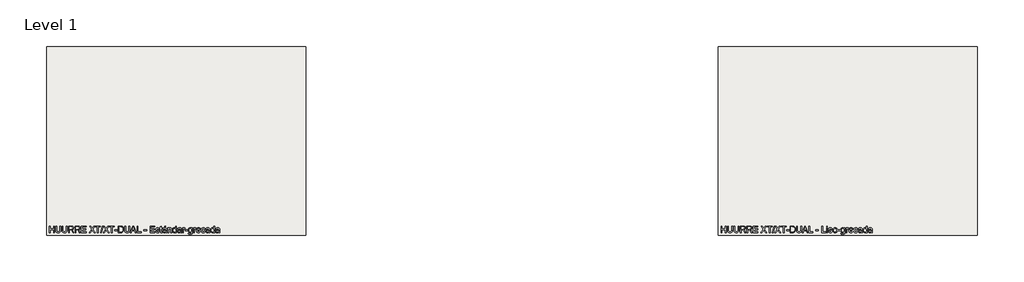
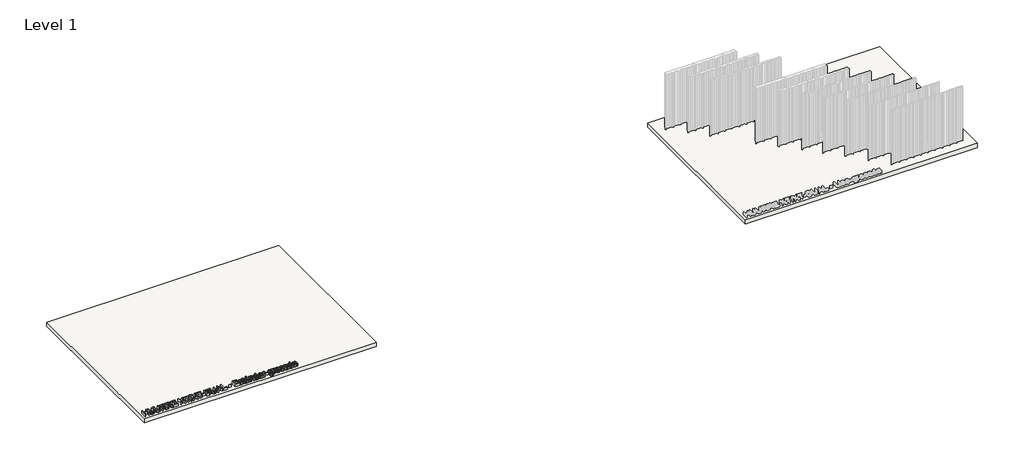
# One storey, part 1 of 2: 2 slabs, 1 proxy.
"""IFC4 building model written with IfcOpenShell, lengths in millimetres."""

from ifc_helpers import new_model, si_unit, frame, origin, origin_with_axes, place, context, project, spatial, polyline, outline, extrude, element, save

model = new_model("IFC4")

# Units and contexts
model_context = context("Model", 3, world=origin())
ifc_project = project(units=[si_unit("LENGTHUNIT", "METRE", prefix="MILLI")], contexts=[model_context])

# Site, building, storey
site = spatial("IfcSite", under=ifc_project)
building = spatial("IfcBuilding", under=site)
storey = spatial("IfcBuildingStorey", under=building, Name="Level 1", Elevation=0.0)

# Proxy
placement = place(None, origin())
element("IfcBuildingElementProxy", 1, Name="200mm Arial", ObjectType="200mm Arial", at=placement, inside=storey, context=model_context, shape_type="SweptSolid", body=[
    extrude(outline(polyline([(-10339.1902574, 798.4307978), (-10339.1902574, 999.3434181), (-10314.0761799, 999.3434181), (-10314.0761799, 917.7226661), (-10207.3413503, 917.7226661), (-10207.3413503, 999.3434181), (-10182.2272728, 999.3434181), (-10182.2272728, 798.4307978), (-10207.3413503, 798.4307978), (-10207.3413503, 892.6085886), (-10314.0761799, 892.6085886), (-10314.0761799, 798.4307978), (-10339.1902574, 798.4307978)])), origin_with_axes(), (0.0, 0.0, 1.0), 100.0),
    extrude(outline(polyline([(-10006.42873, 999.3434181), (-9981.3146525, 999.3434181), (-9981.3146525, 883.4360642), (-9983.0191724, 856.2925043), (-9988.1327321, 835.3906756), (-9997.6854013, 819.2651815), (-10012.7072494, 806.4506253), (-10033.2350647, 798.0813099), (-10059.3056355, 795.2915381), (-10084.8059891, 797.7195593), (-10105.192783, 805.0036228), (-10120.4721485, 816.8923426), (-10130.6502171, 833.1343327), (-10136.3707821, 854.9190782), (-10138.2776371, 883.4360642), (-10138.2776371, 999.3434181), (-10113.1635596, 999.3434181), (-10113.1635596, 884.318981), (-10111.9250235, 861.7494205), (-10108.2094154, 846.034728), (-10101.4771748, 835.1515523), (-10091.1887417, 827.0765425), (-10077.7733116, 822.0733474), (-10061.6600802, 820.4056157), (-10036.116807, 823.7042909), (-10019.1329216, 833.6003165), (-10009.6047779, 852.8773331), (-10006.42873, 884.318981), (-10006.42873, 999.3434181)])), origin_with_axes(), (0.0, 0.0, 1.0), 100.0),
    extrude(outline(polyline([(-9805.5161097, 999.3434181), (-9780.4020322, 999.3434181), (-9780.4020322, 883.4360642), (-9782.1065521, 856.2925043), (-9787.2201118, 835.3906756), (-9796.772781, 819.2651815), (-9811.7946291, 806.4506253), (-9832.3224444, 798.0813099), (-9858.3930152, 795.2915381), (-9883.8933688, 797.7195593), (-9904.2801627, 805.0036228), (-9919.5595282, 816.8923426), (-9929.7375968, 833.1343327), (-9935.4581618, 854.9190782), (-9937.3650168, 883.4360642), (-9937.3650168, 999.3434181), (-9912.2509393, 999.3434181), (-9912.2509393, 884.318981), (-9911.0124032, 861.7494205), (-9907.2967951, 846.034728), (-9900.5645545, 835.1515523), (-9890.2761214, 827.0765425), (-9876.8606913, 822.0733474), (-9860.7474599, 820.4056157), (-9835.2041867, 823.7042909), (-9818.2203013, 833.6003165), (-9808.6921576, 852.8773331), (-9805.5161097, 884.318981), (-9805.5161097, 999.3434181)])), origin_with_axes(), (0.0, 0.0, 1.0), 100.0),
    extrude(outline(polyline([(-9736.4523965, 798.4307978), (-9736.4523965, 999.3434181), (-9649.8775003, 999.3434181), (-9626.6089641, 997.9883861), (-9609.680261, 993.92329), (-9597.3071632, 986.4184973), (-9587.7054431, 974.7443754), (-9581.5434197, 960.2682189), (-9579.4894119, 944.3573226), (-9582.8923203, 924.5652712), (-9593.1010457, 908.1577342), (-9610.4221563, 896.127993), (-9635.1622205, 889.4693289), (-9620.8883991, 878.7271746), (-9600.532262, 852.8773331), (-9567.030475, 798.4307978), (-9596.2157799, 798.4307978), (-9622.3599271, 840.0750397), (-9641.2445361, 867.6416638), (-9654.5128134, 880.6646865), (-9666.4567156, 885.4471524), (-9681.0248426, 886.3300692), (-9711.338319, 886.3300692), (-9711.338319, 798.4307978), (-9736.4523965, 798.4307978)]), holes=[polyline([(-9711.338319, 911.4441467), (-9655.1259501, 911.4441467), (-9626.4556799, 915.0003393), (-9617.0256381, 919.6233898), (-9610.1707703, 926.3801557), (-9604.6034894, 943.4253548), (-9607.2583712, 955.6758253), (-9615.2230164, 965.5473255), (-9628.9266207, 972.0588368), (-9648.7983798, 974.2293406), (-9711.338319, 974.2293406), (-9711.338319, 911.4441467)])]), origin_with_axes(), (0.0, 0.0, 1.0), 100.0),
    extrude(outline(polyline([(-9535.5397762, 798.4307978), (-9535.5397762, 999.3434181), (-9448.96488, 999.3434181), (-9425.6963438, 997.9883861), (-9408.7676407, 993.92329), (-9396.3945429, 986.4184973), (-9386.7928228, 974.7443754), (-9380.6307994, 960.2682189), (-9378.5767916, 944.3573226), (-9381.9797, 924.5652712), (-9392.1884254, 908.1577342), (-9409.509536, 896.127993), (-9434.2496002, 889.4693289), (-9419.9757788, 878.7271746), (-9399.6196417, 852.8773331), (-9366.1178547, 798.4307978), (-9395.3031596, 798.4307978), (-9421.4473068, 840.0750397), (-9440.3319158, 867.6416638), (-9453.6001931, 880.6646865), (-9465.5440953, 885.4471524), (-9480.1122223, 886.3300692), (-9510.4256987, 886.3300692), (-9510.4256987, 798.4307978), (-9535.5397762, 798.4307978)]), holes=[polyline([(-9510.4256987, 911.4441467), (-9454.2133298, 911.4441467), (-9425.5430596, 915.0003393), (-9416.1130178, 919.6233898), (-9409.25815, 926.3801557), (-9403.6908691, 943.4253548), (-9406.3457509, 955.6758253), (-9414.3103961, 965.5473255), (-9428.0140004, 972.0588368), (-9447.8857595, 974.2293406), (-9510.4256987, 974.2293406), (-9510.4256987, 911.4441467)])]), origin_with_axes(), (0.0, 0.0, 1.0), 100.0),
    extrude(outline(polyline([(-9334.6271559, 798.4307978), (-9334.6271559, 999.3434181), (-9190.2212101, 999.3434181), (-9190.2212101, 974.2293406), (-9309.5130784, 974.2293406), (-9309.5130784, 914.5834064), (-9196.4997294, 914.5834064), (-9196.4997294, 889.4693289), (-9309.5130784, 889.4693289), (-9309.5130784, 823.5448753), (-9187.0819504, 823.5448753), (-9187.0819504, 798.4307978), (-9334.6271559, 798.4307978)])), origin_with_axes(), (0.0, 0.0, 1.0), 100.0),
    extrude(outline(polyline([(-9092.9041596, 798.4307978), (-9015.5017878, 907.9124796), (-9080.3471208, 999.3434181), (-9050.2788991, 999.3434181), (-9013.7359542, 947.8399388), (-9001.4241701, 927.7781073), (-8987.0031959, 948.2813972), (-8950.8526585, 999.3434181), (-8920.2448765, 999.3434181), (-8985.1392605, 907.569123), (-8907.6878378, 798.4307978), (-8937.8051104, 798.4307978), (-8989.4557426, 871.173331), (-9000.1978968, 886.2319673), (-9011.9210697, 869.701803), (-9062.2963776, 798.4307978), (-9092.9041596, 798.4307978)])), origin_with_axes(), (0.0, 0.0, 1.0), 100.0),
    extrude(outline(polyline([(-8832.3456052, 798.4307978), (-8832.3456052, 974.2293406), (-8898.2700587, 974.2293406), (-8898.2700587, 999.3434181), (-8741.3070741, 999.3434181), (-8741.3070741, 974.2293406), (-8807.2315276, 974.2293406), (-8807.2315276, 798.4307978), (-8832.3456052, 798.4307978)])), origin_with_axes(), (0.0, 0.0, 1.0), 100.0),
    extrude(outline(polyline([(-8735.0285547, 798.4307978), (-8678.5218802, 999.3434181), (-8655.7622475, 999.3434181), (-8712.3179729, 798.4307978), (-8735.0285547, 798.4307978)])), origin_with_axes(), (0.0, 0.0, 1.0), 100.0),
    extrude(outline(polyline([(-8656.5470624, 798.4307978), (-8579.1446906, 907.9124796), (-8643.9900236, 999.3434181), (-8613.9218019, 999.3434181), (-8577.378857, 947.8399388), (-8565.0670729, 927.7781073), (-8550.6460987, 948.2813972), (-8514.4955613, 999.3434181), (-8483.8877793, 999.3434181), (-8548.7821633, 907.569123), (-8471.3307406, 798.4307978), (-8501.4480132, 798.4307978), (-8553.0986453, 871.173331), (-8563.8407996, 886.2319673), (-8575.5639725, 869.701803), (-8625.9392804, 798.4307978), (-8656.5470624, 798.4307978)])), origin_with_axes(), (0.0, 0.0, 1.0), 100.0),
    extrude(outline(polyline([(-8395.9885079, 798.4307978), (-8395.9885079, 974.2293406), (-8461.9129615, 974.2293406), (-8461.9129615, 999.3434181), (-8304.9499769, 999.3434181), (-8304.9499769, 974.2293406), (-8370.8744304, 974.2293406), (-8370.8744304, 798.4307978), (-8395.9885079, 798.4307978)])), origin_with_axes(), (0.0, 0.0, 1.0), 100.0),
    extrude(outline(polyline([(-8292.3929381, 858.076732), (-8292.3929381, 883.1908095), (-8213.9114458, 883.1908095), (-8213.9114458, 858.076732), (-8292.3929381, 858.076732)])), origin_with_axes(), (0.0, 0.0, 1.0), 100.0),
    extrude(outline(polyline([(-8182.5188489, 798.4307978), (-8182.5188489, 999.3434181), (-8113.209881, 999.3434181), (-8077.3536492, 996.4494131), (-8061.3385197, 990.8698695), (-8047.8249877, 982.0774898), (-8033.931311, 966.7735988), (-8024.0352854, 947.7418369), (-8018.1123852, 925.3500861), (-8016.1380852, 899.9662285), (-8021.4846369, 859.4256326), (-8035.218898, 830.1667513), (-8053.5639468, 811.9443298), (-8077.5743784, 801.8643631), (-8109.8744176, 798.4307978), (-8182.5188489, 798.4307978)]), holes=[polyline([(-8157.4047713, 823.5448753), (-8112.9646263, 823.5448753), (-8080.6400617, 827.1746444), (-8062.0007073, 837.4262893), (-8053.2757726, 848.2972023), (-8046.7213417, 862.3686886), (-8042.6194575, 879.7020619), (-8041.2521627, 900.3586359), (-8043.9315699, 927.7290564), (-8051.9697915, 947.9380407), (-8063.8462486, 961.8194546), (-8078.0403622, 970.2071641), (-8113.6513394, 974.2293406), (-8157.4047713, 974.2293406), (-8157.4047713, 823.5448753)])]), origin_with_axes(), (0.0, 0.0, 1.0), 100.0),
    extrude(outline(polyline([(-7849.7573215, 999.3434181), (-7824.643244, 999.3434181), (-7824.643244, 883.4360642), (-7826.3477639, 856.2925043), (-7831.4613236, 835.3906756), (-7841.0139928, 819.2651815), (-7856.0358409, 806.4506253), (-7876.5636562, 798.0813099), (-7902.6342269, 795.2915381), (-7928.1345806, 797.7195593), (-7948.5213745, 805.0036228), (-7963.80074, 816.8923426), (-7973.9788085, 833.1343327), (-7979.6993736, 854.9190782), (-7981.6062286, 883.4360642), (-7981.6062286, 999.3434181), (-7956.492151, 999.3434181), (-7956.492151, 884.318981), (-7955.253615, 861.7494205), (-7951.5380068, 846.034728), (-7944.8057663, 835.1515523), (-7934.5173332, 827.0765425), (-7921.1019031, 822.0733474), (-7904.9886717, 820.4056157), (-7879.4453985, 823.7042909), (-7862.4615131, 833.6003165), (-7852.9333694, 852.8773331), (-7849.7573215, 884.318981), (-7849.7573215, 999.3434181)])), origin_with_axes(), (0.0, 0.0, 1.0), 100.0),
    extrude(outline(polyline([(-7804.0418522, 798.4307978), (-7723.8435773, 999.3434181), (-7702.4573706, 999.3434181), (-7622.3081466, 798.4307978), (-7648.8447012, 798.4307978), (-7671.8005377, 861.2159917), (-7754.5985121, 861.2159917), (-7777.5543486, 798.4307978), (-7804.0418522, 798.4307978)]), holes=[polyline([(-7745.3769367, 886.3300692), (-7680.9730621, 886.3300692), (-7699.1219072, 935.7243584), (-7713.1995249, 974.2293406), (-7725.7075127, 940.0408405), (-7745.3769367, 886.3300692)])]), origin_with_axes(), (0.0, 0.0, 1.0), 100.0),
    extrude(outline(polyline([(-7595.4772864, 798.4307978), (-7595.4772864, 999.3434181), (-7570.3632089, 999.3434181), (-7570.3632089, 823.5448753), (-7469.9068988, 823.5448753), (-7469.9068988, 798.4307978), (-7595.4772864, 798.4307978)])), origin_with_axes(), (0.0, 0.0, 1.0), 100.0),
    extrude(outline(polyline([(-7378.8683677, 858.076732), (-7378.8683677, 883.1908095), (-7300.3868754, 883.1908095), (-7300.3868754, 858.076732), (-7378.8683677, 858.076732)])), origin_with_axes(), (0.0, 0.0, 1.0), 100.0),
    extrude(outline(polyline([(-7190.5127861, 798.4307978), (-7190.5127861, 999.3434181), (-7046.1068403, 999.3434181), (-7046.1068403, 974.2293406), (-7165.3987086, 974.2293406), (-7165.3987086, 914.5834064), (-7052.3853597, 914.5834064), (-7052.3853597, 889.4693289), (-7165.3987086, 889.4693289), (-7165.3987086, 823.5448753), (-7042.9675806, 823.5448753), (-7042.9675806, 798.4307978), (-7190.5127861, 798.4307978)])), origin_with_axes(), (0.0, 0.0, 1.0), 100.0),
    extrude(outline(polyline([(-7017.8535031, 842.3804335), (-6992.7394255, 845.5196932), (-6988.7785627, 834.7775389), (-6981.1143545, 826.8803388), (-6969.6977499, 822.0242964), (-6954.479698, 820.4056157), (-6939.4455872, 821.8894064), (-6928.8751112, 826.3407785), (-6922.6211173, 832.7909762), (-6920.5364526, 840.2712434), (-6922.63338, 846.6723901), (-6928.9241621, 851.5529579), (-6954.7740036, 858.7143941), (-6992.5922727, 871.0016527), (-7002.163336, 877.1759389), (-7009.0979116, 885.3490505), (-7014.7142434, 905.6070857), (-7010.2015576, 924.3200166), (-6997.8897735, 938.6183634), (-6981.9236949, 946.0495797), (-6960.316759, 949.115263), (-6929.758028, 944.1856443), (-6918.3291606, 938.3853715), (-6910.3338586, 930.8437906), (-6901.7008945, 908.304887), (-6926.814972, 905.1656273), (-6929.9848885, 913.0689589), (-6936.2572765, 919.0225158), (-6958.3547217, 924.0011855), (-6972.7756959, 922.8117004), (-6982.3896787, 919.243245), (-6987.7975441, 914.0928971), (-6989.6001658, 908.1577342), (-6986.608059, 900.8491453), (-6977.2393308, 895.3063899), (-6955.6078695, 889.9598382), (-6918.7460936, 878.1385634), (-6901.6273181, 864.7476588), (-6896.9736108, 854.9006841), (-6895.4223751, 842.9199938), (-6897.243391, 830.5346333), (-6902.7064386, 818.8850367), (-6911.6030515, 808.8847778), (-6923.7247632, 801.4474302), (-6938.3664667, 796.8305111), (-6954.8230546, 795.2915381), (-6980.1455986, 798.2591195), (-6998.6255375, 807.1618638), (-7010.961847, 821.9016691), (-7017.8535031, 842.3804335)])), origin_with_axes(), (0.0, 0.0, 1.0), 100.0),
    extrude(outline(polyline([(-6813.8016231, 819.3755461), (-6810.6623634, 797.6950338), (-6829.4488706, 795.2915381), (-6850.4917207, 799.4608674), (-6860.9886203, 810.3992254), (-6864.0297782, 838.8978173), (-6864.0297782, 920.8619258), (-6882.8653363, 920.8619258), (-6882.8653363, 945.9760033), (-6864.0297782, 945.9760033), (-6864.0297782, 981.8322351), (-6838.9157006, 996.5965659), (-6838.9157006, 945.9760033), (-6813.8016231, 945.9760033), (-6813.8016231, 920.8619258), (-6838.9157006, 920.8619258), (-6838.9157006, 839.6335813), (-6837.5913254, 826.684135), (-6833.2993688, 822.0978728), (-6824.7399811, 820.4056157), (-6813.8016231, 819.3755461)])), origin_with_axes(), (0.0, 0.0, 1.0), 100.0),
    extrude(outline(polyline([(-6744.7379099, 961.6723018), (-6725.9023517, 999.3434181), (-6694.5097548, 999.3434181), (-6725.9023517, 961.6723018), (-6744.7379099, 961.6723018)])), origin_with_axes(), (0.0, 0.0, 1.0), 100.0),
    extrude(outline(polyline([(-6694.5097548, 817.266356), (-6718.8635429, 800.2456823), (-6745.7679794, 795.2915381), (-6766.7556473, 798.2713823), (-6782.2373479, 807.2109148), (-6791.7838857, 820.7857604), (-6794.9660649, 837.671544), (-6790.1590735, 857.5371717), (-6777.5284584, 871.9581459), (-6759.943699, 880.1987026), (-6738.2141358, 883.9756244), (-6694.6569076, 892.6085886), (-6694.5097548, 898.2003949), (-6696.2388002, 909.408533), (-6701.4259363, 916.7416475), (-6713.0264819, 922.186301), (-6729.1887642, 924.0011855), (-6744.1492987, 922.7933063), (-6754.5971473, 919.1696686), (-6761.7217953, 912.4680849), (-6766.7127277, 902.0263677), (-6791.8268052, 905.1656273), (-6780.9620236, 929.6910937), (-6771.7036601, 937.9439131), (-6759.0853077, 944.063017), (-6725.9514026, 949.115263), (-6695.5152989, 944.6516282), (-6678.322947, 933.44349), (-6670.6219506, 916.3982909), (-6669.3956772, 894.4234731), (-6669.3956772, 863.178029), (-6668.120353, 819.5472243), (-6663.1171579, 798.4307978), (-6688.2312354, 798.4307978), (-6694.5097548, 817.266356)]), holes=[polyline([(-6694.5097548, 867.494511), (-6735.0258252, 859.7935146), (-6756.632761, 855.7222872), (-6766.4184221, 849.1004113), (-6769.8519874, 839.4373775), (-6767.9819206, 831.969373), (-6762.3717202, 825.8502692), (-6753.1440134, 821.766779), (-6740.4214278, 820.4056157), (-6726.9324213, 821.9078005), (-6715.0130446, 826.4143549), (-6698.6300331, 840.9579565), (-6694.6569076, 860.3821258), (-6694.5097548, 867.494511)])]), origin_with_axes(), (0.0, 0.0, 1.0), 100.0),
    extrude(outline(polyline([(-6634.8638206, 798.4307978), (-6634.8638206, 945.9760033), (-6609.7497431, 945.9760033), (-6609.7497431, 925.3746116), (-6601.0248084, 935.7611466), (-6590.5463029, 943.1801002), (-6578.3142266, 947.6314723), (-6564.3285794, 949.115263), (-6540.6124535, 944.3327971), (-6524.4256457, 931.7757583), (-6516.8963275, 913.3080822), (-6515.5719523, 889.0278705), (-6515.5719523, 798.4307978), (-6540.6860299, 798.4307978), (-6540.6860299, 885.6433561), (-6543.5800349, 907.8634286), (-6553.8071544, 919.611127), (-6571.0485572, 924.0011855), (-6585.7577056, 921.5363761), (-6598.2963503, 914.141948), (-6606.8863949, 899.8558639), (-6609.7497431, 876.7160864), (-6609.7497431, 798.4307978), (-6634.8638206, 798.4307978)])), origin_with_axes(), (0.0, 0.0, 1.0), 100.0),
    extrude(outline(polyline([(-6390.0015646, 798.4307978), (-6390.0015646, 822.1223983), (-6397.5155544, 810.383897), (-6406.6175681, 801.9992532), (-6417.3076057, 796.9684669), (-6429.5856673, 795.2915381), (-6445.821526, 797.7195593), (-6460.6839586, 805.0036228), (-6473.2655229, 816.6348252), (-6482.6587765, 832.1042631), (-6488.5081002, 850.7865371), (-6490.4578748, 872.0562478), (-6488.6613844, 893.0623097), (-6483.2719132, 912.0327579), (-6474.2955925, 927.8884719), (-6461.7385537, 939.5503312), (-6446.5511587, 946.7240301), (-6429.6837692, 949.115263), (-6417.3965105, 947.4046118), (-6406.531729, 942.2726579), (-6390.0015646, 924.4916948), (-6390.0015646, 999.3434181), (-6364.8874871, 999.3434181), (-6364.8874871, 798.4307978), (-6390.0015646, 798.4307978)]), holes=[polyline([(-6465.3437973, 872.1543496), (-6462.5111059, 849.4376364), (-6454.0130318, 833.2814855), (-6441.6644595, 823.6245831), (-6427.2802735, 820.4056157), (-6412.9022188, 823.4774303), (-6400.8663462, 832.6928743), (-6392.71776, 848.2236259), (-6390.0015646, 870.2413633), (-6392.766811, 894.3131085), (-6401.06255, 911.0026883), (-6413.4049909, 920.7515612), (-6428.3103431, 924.0011855), (-6442.8416819, 920.8803199), (-6454.7487958, 911.5177231), (-6462.6950469, 895.4351486), (-6465.3437973, 872.1543496)])]), origin_with_axes(), (0.0, 0.0, 1.0), 100.0),
    extrude(outline(polyline([(-6233.03858, 817.266356), (-6257.3923681, 800.2456823), (-6284.2968047, 795.2915381), (-6305.2844725, 798.2713823), (-6320.7661731, 807.2109148), (-6330.3127109, 820.7857604), (-6333.4948902, 837.671544), (-6328.6878988, 857.5371717), (-6316.0572836, 871.9581459), (-6298.4725242, 880.1987026), (-6276.7429611, 883.9756244), (-6233.1857328, 892.6085886), (-6233.03858, 898.2003949), (-6234.7676254, 909.408533), (-6239.9547615, 916.7416475), (-6251.5553071, 922.186301), (-6267.7175894, 924.0011855), (-6282.6781239, 922.7933063), (-6293.1259726, 919.1696686), (-6300.2506206, 912.4680849), (-6305.241553, 902.0263677), (-6330.3556305, 905.1656273), (-6319.4908489, 929.6910937), (-6310.2324854, 937.9439131), (-6297.6141329, 944.063017), (-6264.4802279, 949.115263), (-6234.0441242, 944.6516282), (-6216.8517722, 933.44349), (-6209.1507758, 916.3982909), (-6207.9245025, 894.4234731), (-6207.9245025, 863.178029), (-6206.6491782, 819.5472243), (-6201.6459831, 798.4307978), (-6226.7600606, 798.4307978), (-6233.03858, 817.266356)]), holes=[polyline([(-6233.03858, 867.494511), (-6273.5546504, 859.7935146), (-6295.1615863, 855.7222872), (-6304.9472474, 849.1004113), (-6308.3808126, 839.4373775), (-6306.5107458, 831.969373), (-6300.9005454, 825.8502692), (-6291.6728387, 821.766779), (-6278.950253, 820.4056157), (-6265.4612465, 821.9078005), (-6253.5418699, 826.4143549), (-6237.1588584, 840.9579565), (-6233.1857328, 860.3821258), (-6233.03858, 867.494511)])]), origin_with_axes(), (0.0, 0.0, 1.0), 100.0),
    extrude(outline(polyline([(-6173.3926459, 798.4307978), (-6173.3926459, 945.9760033), (-6151.417828, 945.9760033), (-6151.417828, 924.1483383), (-6135.8196314, 944.2592207), (-6120.123333, 949.115263), (-6107.6153451, 947.1777512), (-6094.9111536, 941.3652157), (-6103.2988631, 918.8508376), (-6120.9571988, 924.0011855), (-6135.1574438, 919.0470413), (-6144.2073409, 905.3127801), (-6148.2785683, 875.9803224), (-6148.2785683, 798.4307978), (-6173.3926459, 798.4307978)])), origin_with_axes(), (0.0, 0.0, 1.0), 100.0),
    extrude(outline(polyline([(-6091.7718939, 858.076732), (-6091.7718939, 883.1908095), (-6013.2904016, 883.1908095), (-6013.2904016, 858.076732), (-6091.7718939, 858.076732)])), origin_with_axes(), (0.0, 0.0, 1.0), 100.0),
    extrude(outline(polyline([(-5991.3155837, 785.873759), (-5966.2015062, 782.7344994), (-5963.4301285, 774.8863501), (-5958.0590514, 769.4907475), (-5947.5008381, 765.2968928), (-5933.6807378, 763.8989412), (-5918.9409326, 765.4808338), (-5907.9780491, 770.2265115), (-5900.3751545, 777.8294061), (-5895.7153159, 787.9829491), (-5893.9985333, 817.266356), (-5911.6813945, 803.1396873), (-5933.2392794, 798.4307978), (-5959.1320405, 803.9122395), (-5978.4397139, 820.3565647), (-5990.451061, 844.4650981), (-5994.4548434, 872.9391646), (-5992.658353, 893.2155939), (-5987.2688818, 911.8610797), (-5978.4765021, 927.6616113), (-5966.4712863, 939.4031784), (-5951.664036, 946.6872419), (-5934.4655527, 949.115263), (-5912.0615392, 943.6215586), (-5893.9985333, 927.1404452), (-5893.9985333, 945.9760033), (-5868.8844557, 945.9760033), (-5868.8844557, 818.5907311), (-5870.6012384, 789.1785656), (-5875.7515863, 769.8095786), (-5884.6236738, 756.9643656), (-5897.505675, 747.1235222), (-5914.115547, 740.8695283), (-5934.1712472, 738.7848637), (-5957.5378852, 741.7217883), (-5975.9381163, 750.532562), (-5987.740997, 765.2417105), (-5991.3155837, 785.873759)]), holes=[polyline([(-5969.3407659, 874.6559472), (-5966.6613587, 851.6204029), (-5958.6231371, 835.7830831), (-5946.5382136, 826.6044273), (-5931.7187005, 823.5448753), (-5917.0095521, 826.5860332), (-5904.8633149, 835.7095067), (-5896.7147287, 851.3444915), (-5893.9985333, 873.9201832), (-5896.7944364, 895.692666), (-5905.1821459, 911.3705703), (-5917.5061928, 920.8435317), (-5932.111108, 924.0011855), (-5946.4523744, 920.8925826), (-5958.4759843, 911.5667741), (-5966.6245705, 896.1218616), (-5969.3407659, 874.6559472)])]), origin_with_axes(), (0.0, 0.0, 1.0), 100.0),
    extrude(outline(polyline([(-5831.2133394, 798.4307978), (-5831.2133394, 945.9760033), (-5809.2385216, 945.9760033), (-5809.2385216, 924.1483383), (-5793.640325, 944.2592207), (-5777.9440265, 949.115263), (-5765.4360387, 947.1777512), (-5752.7318471, 941.3652157), (-5761.1195566, 918.8508376), (-5778.7778924, 924.0011855), (-5792.9781374, 919.0470413), (-5802.0280345, 905.3127801), (-5806.0992619, 875.9803224), (-5806.0992619, 798.4307978), (-5831.2133394, 798.4307978)])), origin_with_axes(), (0.0, 0.0, 1.0), 100.0),
    extrude(outline(polyline([(-5633.7342844, 842.3804335), (-5609.1107162, 839.2411738), (-5617.9828037, 820.6876585), (-5632.1401291, 806.8185073), (-5651.2638615, 798.1732804), (-5675.0351697, 795.2915381), (-5704.5025176, 800.2640764), (-5727.1763112, 815.1816913), (-5741.6340736, 839.0756269), (-5746.4533277, 870.9771273), (-5741.5850227, 903.9516168), (-5726.9801075, 928.6119732), (-5704.6128822, 943.9894406), (-5676.4576468, 949.115263), (-5649.1791969, 944.0017033), (-5627.3821886, 928.6610241), (-5613.0899731, 904.0497186), (-5608.3259013, 871.1242801), (-5608.4730541, 864.3552513), (-5721.3392502, 864.3552513), (-5716.9921113, 845.5564814), (-5706.8937505, 831.7363811), (-5692.3194922, 823.238307), (-5674.5446604, 820.4056157), (-5649.9210922, 825.6540655), (-5640.7730933, 832.4598824), (-5633.7342844, 842.3804335)]), holes=[polyline([(-5721.3392502, 889.4693289), (-5633.4399788, 889.4693289), (-5636.8367559, 902.7376062), (-5643.49542, 912.2289617), (-5658.1371234, 921.0581295), (-5676.5557487, 924.0011855), (-5693.4844518, 921.6528721), (-5707.4823617, 914.6079319), (-5717.2128405, 903.6266543), (-5721.3392502, 889.4693289)])]), origin_with_axes(), (0.0, 0.0, 1.0), 100.0),
    extrude(outline(polyline([(-5489.034033, 851.7982126), (-5463.9199555, 848.6589529), (-5470.9219761, 826.3223844), (-5484.0798888, 809.4427322), (-5502.1551575, 798.8293366), (-5523.9092461, 795.2915381), (-5550.6236103, 800.2272882), (-5571.5131763, 815.0345385), (-5584.9960514, 839.0633642), (-5589.4903431, 871.6638403), (-5587.5712254, 894.0126715), (-5581.8138722, 913.3816586), (-5572.126313, 929.0227747), (-5558.4165773, 940.1879933), (-5542.0151717, 946.8834456), (-5524.2526027, 949.115263), (-5503.0319429, 946.0495797), (-5486.0664516, 936.8525299), (-5473.8956889, 922.0146227), (-5467.0592151, 902.0263677), (-5492.1732927, 898.887108), (-5496.7288981, 909.8438601), (-5503.8228892, 917.6981406), (-5513.0628586, 922.4254243), (-5524.0563989, 924.0011855), (-5540.2861263, 920.898714), (-5553.1681275, 911.5912995), (-5561.5742311, 895.57617), (-5564.3762656, 872.3505534), (-5561.6355447, 848.8122371), (-5553.4133821, 832.7419252), (-5540.7643729, 823.489693), (-5524.743112, 820.4056157), (-5511.7384835, 822.3308648), (-5501.076037, 828.1066121), (-5493.3198582, 837.8800104), (-5489.034033, 851.7982126)])), origin_with_axes(), (0.0, 0.0, 1.0), 100.0),
    extrude(outline(polyline([(-5347.7673468, 817.266356), (-5372.1211349, 800.2456823), (-5399.0255715, 795.2915381), (-5420.0132393, 798.2713823), (-5435.49494, 807.2109148), (-5445.0414777, 820.7857604), (-5448.223657, 837.671544), (-5443.4166656, 857.5371717), (-5430.7860504, 871.9581459), (-5413.201291, 880.1987026), (-5391.4717279, 883.9756244), (-5347.9144996, 892.6085886), (-5347.7673468, 898.2003949), (-5349.4963922, 909.408533), (-5354.6835283, 916.7416475), (-5366.2840739, 922.186301), (-5382.4463563, 924.0011855), (-5397.4068907, 922.7933063), (-5407.8547394, 919.1696686), (-5414.9793874, 912.4680849), (-5419.9703198, 902.0263677), (-5445.0843973, 905.1656273), (-5434.2196157, 929.6910937), (-5424.9612522, 937.9439131), (-5412.3428997, 944.063017), (-5379.2089947, 949.115263), (-5348.772891, 944.6516282), (-5331.5805391, 933.44349), (-5323.8795426, 916.3982909), (-5322.6532693, 894.4234731), (-5322.6532693, 863.178029), (-5321.3779451, 819.5472243), (-5316.3747499, 798.4307978), (-5341.4888275, 798.4307978), (-5347.7673468, 817.266356)]), holes=[polyline([(-5347.7673468, 867.494511), (-5388.2834172, 859.7935146), (-5409.8903531, 855.7222872), (-5419.6760142, 849.1004113), (-5423.1095795, 839.4373775), (-5421.2395126, 831.969373), (-5415.6293122, 825.8502692), (-5406.4016055, 821.766779), (-5393.6790198, 820.4056157), (-5380.1900133, 821.9078005), (-5368.2706367, 826.4143549), (-5351.8876252, 840.9579565), (-5347.9144996, 860.3821258), (-5347.7673468, 867.494511)])]), origin_with_axes(), (0.0, 0.0, 1.0), 100.0),
    extrude(outline(polyline([(-5197.0828816, 798.4307978), (-5197.0828816, 822.1223983), (-5204.5968714, 810.383897), (-5213.6988851, 801.9992532), (-5224.3889227, 796.9684669), (-5236.6669843, 795.2915381), (-5252.902843, 797.7195593), (-5267.7652756, 805.0036228), (-5280.3468399, 816.6348252), (-5289.7400935, 832.1042631), (-5295.5894172, 850.7865371), (-5297.5391918, 872.0562478), (-5295.7427014, 893.0623097), (-5290.3532301, 912.0327579), (-5281.3769094, 927.8884719), (-5268.8198707, 939.5503312), (-5253.6324756, 946.7240301), (-5236.7650862, 949.115263), (-5224.4778275, 947.4046118), (-5213.6130459, 942.2726579), (-5197.0828816, 924.4916948), (-5197.0828816, 999.3434181), (-5171.9688041, 999.3434181), (-5171.9688041, 798.4307978), (-5197.0828816, 798.4307978)]), holes=[polyline([(-5272.4251142, 872.1543496), (-5269.5924229, 849.4376364), (-5261.0943488, 833.2814855), (-5248.7457765, 823.6245831), (-5234.3615905, 820.4056157), (-5219.9835358, 823.4774303), (-5207.9476632, 832.6928743), (-5199.799077, 848.2236259), (-5197.0828816, 870.2413633), (-5199.8481279, 894.3131085), (-5208.1438669, 911.0026883), (-5220.4863079, 920.7515612), (-5235.39166, 924.0011855), (-5249.9229989, 920.8803199), (-5261.8301128, 911.5177231), (-5269.7763639, 895.4351486), (-5272.4251142, 872.1543496)])]), origin_with_axes(), (0.0, 0.0, 1.0), 100.0),
    extrude(outline(polyline([(-5040.119897, 817.266356), (-5064.4736851, 800.2456823), (-5091.3781217, 795.2915381), (-5112.3657895, 798.2713823), (-5127.8474901, 807.2109148), (-5137.3940279, 820.7857604), (-5140.5762072, 837.671544), (-5135.7692158, 857.5371717), (-5123.1386006, 871.9581459), (-5105.5538412, 880.1987026), (-5083.824278, 883.9756244), (-5040.2670498, 892.6085886), (-5040.119897, 898.2003949), (-5041.8489424, 909.408533), (-5047.0360785, 916.7416475), (-5058.6366241, 922.186301), (-5074.7989064, 924.0011855), (-5089.7594409, 922.7933063), (-5100.2072896, 919.1696686), (-5107.3319375, 912.4680849), (-5112.3228699, 902.0263677), (-5137.4369475, 905.1656273), (-5126.5721659, 929.6910937), (-5117.3138023, 937.9439131), (-5104.6954499, 944.063017), (-5071.5615449, 949.115263), (-5041.1254411, 944.6516282), (-5023.9330892, 933.44349), (-5016.2320928, 916.3982909), (-5015.0058195, 894.4234731), (-5015.0058195, 863.178029), (-5013.7304952, 819.5472243), (-5008.7273001, 798.4307978), (-5033.8413776, 798.4307978), (-5040.119897, 817.266356)]), holes=[polyline([(-5040.119897, 867.494511), (-5080.6359674, 859.7935146), (-5102.2429033, 855.7222872), (-5112.0285643, 849.1004113), (-5115.4621296, 839.4373775), (-5113.5920628, 831.969373), (-5107.9818624, 825.8502692), (-5098.7541557, 821.766779), (-5086.03157, 820.4056157), (-5072.5425635, 821.9078005), (-5060.6231869, 826.4143549), (-5044.2401754, 840.9579565), (-5040.2670498, 860.3821258), (-5040.119897, 867.494511)])]), origin_with_axes(), (0.0, 0.0, 1.0), 100.0),
])

# Slabs
element("IfcSlab", 2, ObjectType="Generic Floor - 150mm", at=placement, inside=storey, context=model_context, shape_type="SweptSolid", body=[
    extrude(outline(polyline([(-2325.090184, 6615.2076786), (-2325.090184, 715.2076786), (-10425.090184, 715.2076786), (-10425.090184, 6615.2076786), (-2325.090184, 6615.2076786)])), frame((0.0, 0.0, -150.0), z_axis=(0.0, 0.0, 1.0), x_axis=(1.0, 0.0, 0.0)), (0.0, 0.0, 1.0), 150.0),
])
element("IfcSlab", 3, ObjectType="Generic Floor - 150mm", at=placement, inside=storey, context=model_context, shape_type="SweptSolid", body=[
    extrude(outline(polyline([(18674.909816, 6615.2076786), (18674.909816, 715.2076786), (10574.909816, 715.2076786), (10574.909816, 6615.2076786), (18674.909816, 6615.2076786)])), frame((0.0, 0.0, -150.0), z_axis=(0.0, 0.0, 1.0), x_axis=(1.0, 0.0, 0.0)), (0.0, 0.0, 1.0), 150.0),
])

save(model, "model.ifc")
